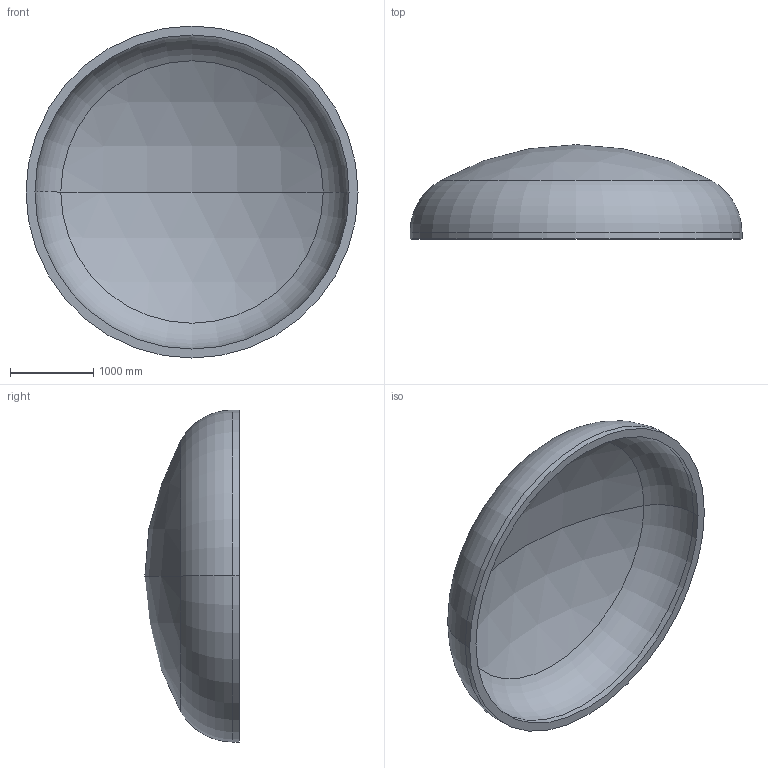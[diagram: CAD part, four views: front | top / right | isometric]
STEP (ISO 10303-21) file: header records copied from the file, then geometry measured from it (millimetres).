
FILE_DESCRIPTION (( 'STEP AP203' ), '1' );
FILE_NAME ('DIN 28013 Korbbogenform_-_Boden DIN 28013 - 4000 x 75 - I - s=108.step', '2016-07-01T22:51:33', ( '' ), ( '' ), 'SwSTEP 2.0', 'SolidWorks 2013', '' );
FILE_SCHEMA (( 'CONFIG_CONTROL_DESIGN' ));
Length unit declared in the file: millimetre
Products named in the file (1): DIN 28013 Korbbogenform_-_Boden DIN 28013 - 4000 x 75 - I - s=108
Bounding box: 4000 x 1135.45 x 4000 mm (x, y, z)
Volume: 1912808118.5 mm3; surface area: 36767313.7 mm2
Topology: 1 solids, 1 shells, 13 faces, 24 edges, 14 vertices
Faces by surface type: torus 4, cylinder 4, sphere 4, plane 1
Entity records: 407 total; most frequent: DIRECTION 72, CARTESIAN_POINT 52, ORIENTED_EDGE 48, AXIS2_PLACEMENT_3D 34, EDGE_CURVE 24, CIRCLE 20, VERTEX_POINT 14, EDGE_LOOP 14
